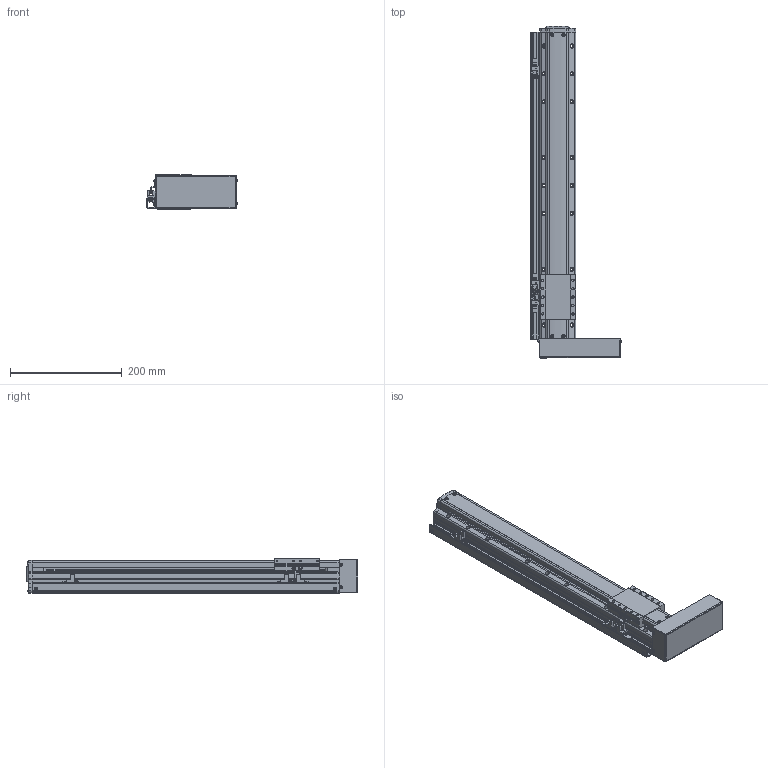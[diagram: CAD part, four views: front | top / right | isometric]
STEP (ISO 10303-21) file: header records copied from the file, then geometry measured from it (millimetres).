
FILE_DESCRIPTION(('STEP AP214'),'1');
FILE_NAME('Z:/Web/3D/PSA65/STP/PSA65-400 (3D)/PSA65ㅁㅁ-400PR+3SL.stp','2014-06-25T04:57:26',(' '),(' '),'Spatial InterOp 3D',' ',' ');
FILE_SCHEMA(('automotive_design'));
Length unit declared in the file: millimetre
Products named in the file (67): SLIDE; RRCV-PA060; 1; 2; 3; 4; 5; 6; 7; 8; 9; 10; 11; 12; 13; 14; 15; 16; 17; 18; 19; 20; 21; 22; 23; 24; 25; 26; 27; 28; 29; 30; 31; 스크루 : Round - M3.0 x 8.0; RN8 x 0.75; SHAFT-SAN65; BASE; 스크루 : Round - M3.0 x 6.0; BTCV-SAN65; BHCS M3 X 6L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
Bounding box: 162.06 x 594.8 x 62 mm (x, y, z)
Volume: 2067990.3 mm3; surface area: 339678.3 mm2
Topology: 67 solids, 67 shells, 2264 faces, 5967 edges, 3832 vertices
Faces by surface type: plane 1391, cylinder 589, cone 199, sphere 50, bspline 19, torus 16
Entity records: 89618 total; most frequent: CARTESIAN_POINT 13739, DIRECTION 12014, ORIENTED_EDGE 11682, EDGE_CURVE 5841, LINE 4120, VECTOR 4120, AXIS2_PLACEMENT_3D 3947, VERTEX_POINT 3832
